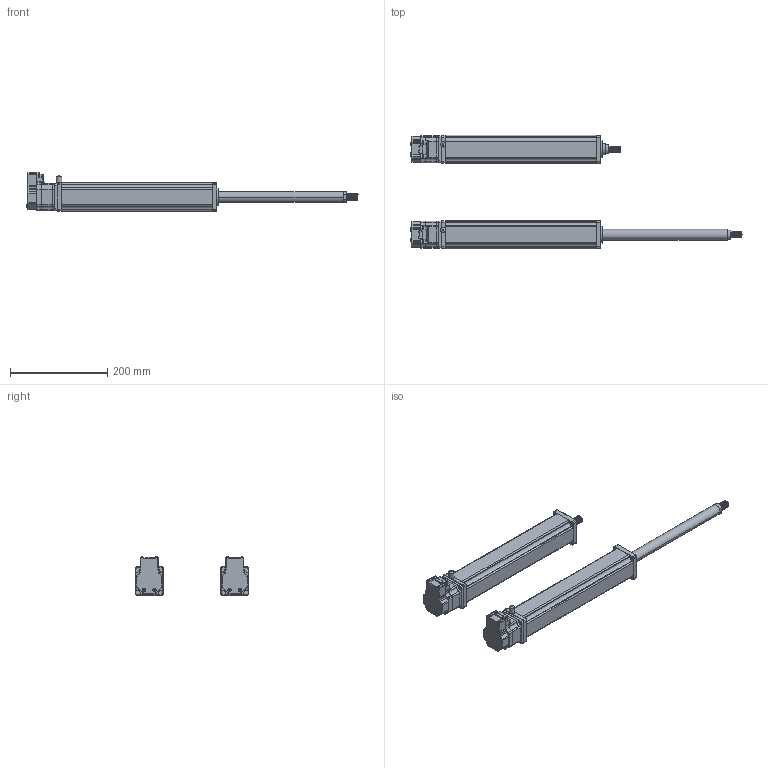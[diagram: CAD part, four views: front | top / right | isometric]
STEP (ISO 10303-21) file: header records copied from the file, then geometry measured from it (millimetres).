
FILE_DESCRIPTION(('FreeCAD Model'),'2;1');
FILE_NAME('Open CASCADE Shape Model','2023-08-04T13:00:14',('Author'),( ''),'Open CASCADE STEP processor 7.5','FreeCAD','Unknown');
FILE_SCHEMA(('AUTOMOTIVE_DESIGN { 1 0 10303 214 1 1 1 1 }'));
Length unit declared in the file: millimetre
Products named in the file (51): Unnamed; Shapes; Shapes001; Shapes002; Shapes003; Shapes004; Shapes005; Shapes006; Shapes007; Shapes008; Shapes009; Shapes010; Shapes011; Shapes012; Shapes013; Shapes014; Shapes015; Shapes016; Shapes017; Shapes018; Shapes019; Shapes020; Shapes021; Shapes022; Shapes023; Shapes024; Shapes025; Shapes026; Shapes027; Shapes028; Shapes029; Shapes030; Shapes031; Shapes032; Shapes033; Shapes034; Shapes035; Shapes036; Shapes037; Shapes038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
Assembly tree (50 placements, depth 2):
  Unnamed
    Shapes
    Shapes001
    Shapes002
    Shapes003
    Shapes004
    Shapes005
    Shapes006
    Shapes007
    Shapes008
    Shapes009
    Shapes010
    Shapes011
    Shapes012
    Shapes013
    Shapes014
    Shapes015
    Shapes016
    Shapes017
    Shapes018
    Shapes019
    Shapes020
    Shapes021
    Shapes022
    Shapes023
    Shapes024
    Shapes025
    Shapes026
    Shapes027
    Shapes028
    Shapes029
    Shapes030
    Shapes031
    Shapes032
    Shapes033
    Shapes034
    Shapes035
    Shapes036
    Shapes037
    Shapes038
    Shapes039
    Shapes040
    Shapes041
    Shapes042
    Shapes043
    Shapes044
    Shapes045
    Shapes047
    Shapes048
    AN10-01
    AN10-002
Bounding box: 681.42 x 233.23 x 79 mm (x, y, z)
Volume: 2452272.8 mm3; surface area: 313438.3 mm2
Topology: 50 solids, 50 shells, 1466 faces, 3880 edges, 2526 vertices
Faces by surface type: plane 830, cylinder 516, bspline 60, torus 46, sphere 10, cone 4
Full cylindrical faces by diameter (mm): 6 x2, 9.728 x2, 11 x2
Entity records: 153657 total; most frequent: CARTESIAN_POINT 75453, DIRECTION 14449, LINE 9075, VECTOR 9075, ORIENTED_EDGE 7728, PCURVE 7728, DEFINITIONAL_REPRESENTATION 7728, EDGE_CURVE 3864
